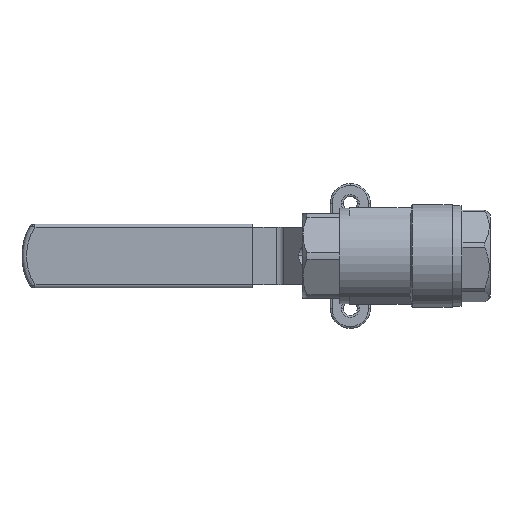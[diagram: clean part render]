
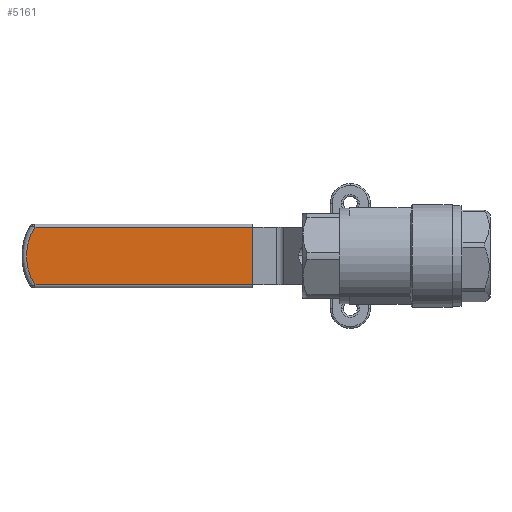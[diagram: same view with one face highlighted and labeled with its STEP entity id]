
A CAD part, front view. The second image highlights one B-rep face of the part: STEP entity #5161.
In plain terms, the highlighted planar face has unit normal (0, -1, 0).
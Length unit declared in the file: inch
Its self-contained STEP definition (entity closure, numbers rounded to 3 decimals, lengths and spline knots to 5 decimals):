
#186 = DIRECTION ( 'NONE',  ( 1., 0., 0. ) ) ;
#2738 = VECTOR ( 'NONE', #18657, 39.37008 ) ;
#5161 = ADVANCED_FACE ( 'NONE', ( #50474 ), #9553, .T. ) ;
#5843 = VECTOR ( 'NONE', #45058, 39.37008 ) ;
#5943 = VECTOR ( 'NONE', #186, 39.37008 ) ;
#8561 = CIRCLE ( 'NONE', #44678, 0.5741 ) ;
#9553 = PLANE ( 'NONE',  #20802 ) ;
#10504 = CARTESIAN_POINT ( 'NONE',  ( 3.96161, 0.92, 0.31 ) ) ;
#17686 = DIRECTION ( 'NONE',  ( 0., -1., 0. ) ) ;
#18299 = CARTESIAN_POINT ( 'NONE',  ( 1.6325, 0.92, 0.31 ) ) ;
#18657 = DIRECTION ( 'NONE',  ( 0., 0., -1. ) ) ;
#19468 = DIRECTION ( 'NONE',  ( 0., -1., 0. ) ) ;
#20150 = ORIENTED_EDGE ( 'NONE', *, *, #21636, .T. ) ;
#20240 = CARTESIAN_POINT ( 'NONE',  ( 3.96161, 0.92, -0.31 ) ) ;
#20802 = AXIS2_PLACEMENT_3D ( 'NONE', #41833, #17686, #45879 ) ;
#21636 = EDGE_CURVE ( 'NONE', #51367, #37123, #29889, .T. ) ;
#23780 = CARTESIAN_POINT ( 'NONE',  ( 1.6325, 0.92, 0.31 ) ) ;
#23841 = ORIENTED_EDGE ( 'NONE', *, *, #42779, .T. ) ;
#24042 = EDGE_CURVE ( 'NONE', #37123, #36197, #8561, .T. ) ;
#24389 = CARTESIAN_POINT ( 'NONE',  ( 1.6325, 0.92, 0.31 ) ) ;
#26202 = LINE ( 'NONE', #24389, #5943 ) ;
#26430 = EDGE_CURVE ( 'NONE', #28847, #36197, #26202, .T. ) ;
#26600 = CARTESIAN_POINT ( 'NONE',  ( 1.6325, 0.92, -0.31 ) ) ;
#28847 = VERTEX_POINT ( 'NONE', #23780 ) ;
#29889 = LINE ( 'NONE', #33262, #5843 ) ;
#33262 = CARTESIAN_POINT ( 'NONE',  ( 1.6325, 0.92, -0.31 ) ) ;
#33695 = LINE ( 'NONE', #18299, #2738 ) ;
#36197 = VERTEX_POINT ( 'NONE', #10504 ) ;
#37123 = VERTEX_POINT ( 'NONE', #20240 ) ;
#41833 = CARTESIAN_POINT ( 'NONE',  ( 1.6325, 0.92, 0.31 ) ) ;
#42779 = EDGE_CURVE ( 'NONE', #28847, #51367, #33695, .T. ) ;
#43611 = CARTESIAN_POINT ( 'NONE',  ( 3.4784, 0.92, 0. ) ) ;
#43646 = ORIENTED_EDGE ( 'NONE', *, *, #24042, .T. ) ;
#44678 = AXIS2_PLACEMENT_3D ( 'NONE', #43611, #19468, #47648 ) ;
#45058 = DIRECTION ( 'NONE',  ( 1., 0., 0. ) ) ;
#45372 = ORIENTED_EDGE ( 'NONE', *, *, #26430, .F. ) ;
#45879 = DIRECTION ( 'NONE',  ( 0., 0., -1. ) ) ;
#47648 = DIRECTION ( 'NONE',  ( 0., 0., -1. ) ) ;
#48255 = EDGE_LOOP ( 'NONE', ( #20150, #43646, #45372, #23841 ) ) ;
#50474 = FACE_OUTER_BOUND ( 'NONE', #48255, .T. ) ;
#51367 = VERTEX_POINT ( 'NONE', #26600 ) ;
